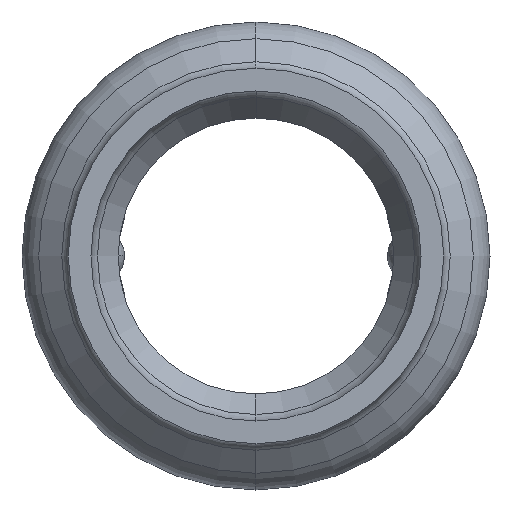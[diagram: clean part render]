
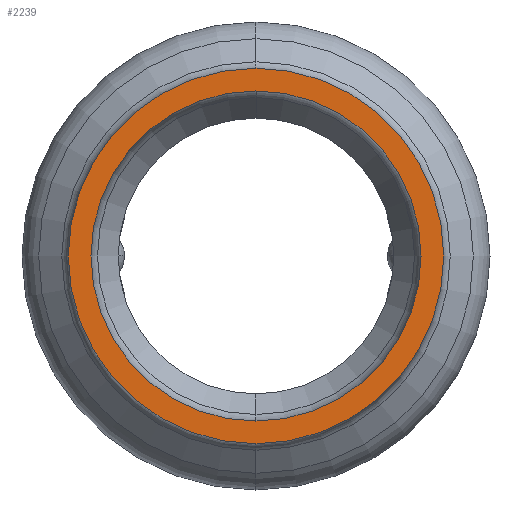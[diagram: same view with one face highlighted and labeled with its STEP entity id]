
A CAD part, left-side view. The second image highlights one B-rep face of the part: STEP entity #2239.
In plain terms, the highlighted planar face has unit normal (-1, 0, 0).
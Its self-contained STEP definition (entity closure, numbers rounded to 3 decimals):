
#35 = CARTESIAN_POINT ( 'NONE',  ( -53., 0., 0. ) ) ;
#41 = DIRECTION ( 'NONE',  ( -1., 0., 0. ) ) ;
#49 = DIRECTION ( 'NONE',  ( 0., -1., 0. ) ) ;
#50 = EDGE_LOOP ( 'NONE', ( #1968, #493 ) ) ;
#108 = FACE_BOUND ( 'NONE', #50, .T. ) ;
#126 = DIRECTION ( 'NONE',  ( 0., -1., 0. ) ) ;
#130 = DIRECTION ( 'NONE',  ( -1., 0., 0. ) ) ;
#167 = VERTEX_POINT ( 'NONE', #1176 ) ;
#193 = AXIS2_PLACEMENT_3D ( 'NONE', #1211, #130, #1395 ) ;
#261 = EDGE_CURVE ( 'NONE', #1796, #167, #1275, .T. ) ;
#423 = EDGE_CURVE ( 'NONE', #167, #1796, #1543, .T. ) ;
#493 = ORIENTED_EDGE ( 'NONE', *, *, #1273, .F. ) ;
#523 = EDGE_LOOP ( 'NONE', ( #2179, #1389 ) ) ;
#584 = EDGE_CURVE ( 'NONE', #1939, #1671, #803, .T. ) ;
#623 = DIRECTION ( 'NONE',  ( -1., 0., 0. ) ) ;
#665 = PLANE ( 'NONE',  #1170 ) ;
#706 = CARTESIAN_POINT ( 'NONE',  ( -53., 0., 0. ) ) ;
#716 = CARTESIAN_POINT ( 'NONE',  ( -53., 0., 0. ) ) ;
#724 = DIRECTION ( 'NONE',  ( -1., 0., 0. ) ) ;
#732 = DIRECTION ( 'NONE',  ( 0., -1., 0. ) ) ;
#767 = CARTESIAN_POINT ( 'NONE',  ( -53., 0., 9.1 ) ) ;
#803 = CIRCLE ( 'NONE', #1363, 9.1 ) ;
#1002 = DIRECTION ( 'NONE',  ( 0., -1., 0. ) ) ;
#1019 = CARTESIAN_POINT ( 'NONE',  ( -53., -10.35, 0. ) ) ;
#1170 = AXIS2_PLACEMENT_3D ( 'NONE', #1019, #1393, #126 ) ;
#1176 = CARTESIAN_POINT ( 'NONE',  ( -53., 0., 10.35 ) ) ;
#1211 = CARTESIAN_POINT ( 'NONE',  ( -53., 0., 0. ) ) ;
#1273 = EDGE_CURVE ( 'NONE', #1671, #1939, #1949, .T. ) ;
#1275 = CIRCLE ( 'NONE', #193, 10.35 ) ;
#1359 = CARTESIAN_POINT ( 'NONE',  ( -53., 0., -9.1 ) ) ;
#1363 = AXIS2_PLACEMENT_3D ( 'NONE', #716, #623, #1002 ) ;
#1389 = ORIENTED_EDGE ( 'NONE', *, *, #261, .T. ) ;
#1393 = DIRECTION ( 'NONE',  ( -1., 0., 0. ) ) ;
#1395 = DIRECTION ( 'NONE',  ( 0., -1., 0. ) ) ;
#1543 = CIRCLE ( 'NONE', #1891, 10.35 ) ;
#1671 = VERTEX_POINT ( 'NONE', #1359 ) ;
#1764 = AXIS2_PLACEMENT_3D ( 'NONE', #35, #41, #49 ) ;
#1796 = VERTEX_POINT ( 'NONE', #1821 ) ;
#1821 = CARTESIAN_POINT ( 'NONE',  ( -53., 0., -10.35 ) ) ;
#1891 = AXIS2_PLACEMENT_3D ( 'NONE', #706, #724, #732 ) ;
#1939 = VERTEX_POINT ( 'NONE', #767 ) ;
#1949 = CIRCLE ( 'NONE', #1764, 9.1 ) ;
#1968 = ORIENTED_EDGE ( 'NONE', *, *, #584, .F. ) ;
#2018 = FACE_OUTER_BOUND ( 'NONE', #523, .T. ) ;
#2179 = ORIENTED_EDGE ( 'NONE', *, *, #423, .T. ) ;
#2239 = ADVANCED_FACE ( 'NONE', ( #2018, #108 ), #665, .T. ) ;
